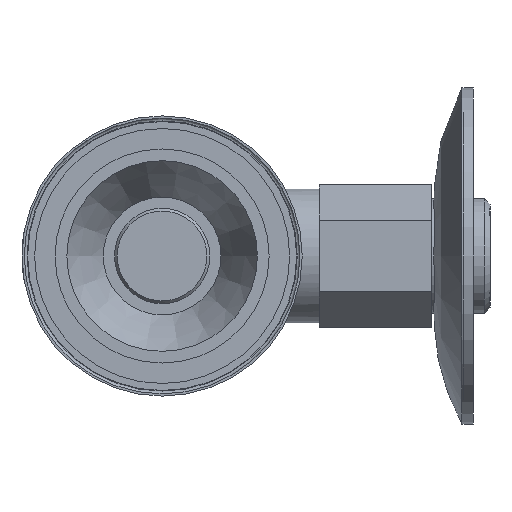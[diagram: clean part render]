
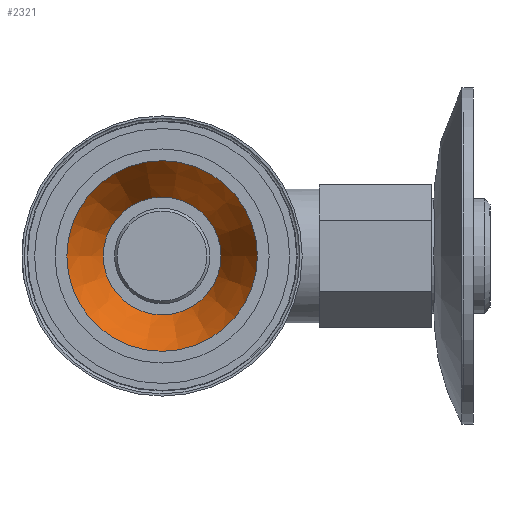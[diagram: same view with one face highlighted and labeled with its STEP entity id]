
A CAD part, front view. The second image highlights one B-rep face of the part: STEP entity #2321.
In plain terms, the highlighted conical face has half-angle 28.443 degrees and reference radius 13.75 mm.
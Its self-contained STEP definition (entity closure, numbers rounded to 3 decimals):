
#147=CONICAL_SURFACE('',#2698,13.75,0.496);
#284=FACE_OUTER_BOUND('',#423,.T.);
#423=EDGE_LOOP('',(#1702,#1703,#1704,#1705,#1706,#1707));
#577=LINE('',#3961,#684);
#684=VECTOR('',#3161,13.75);
#801=CIRCLE('',#2699,17.);
#802=CIRCLE('',#2700,17.);
#803=CIRCLE('',#2701,10.5);
#804=CIRCLE('',#2702,10.5);
#1020=VERTEX_POINT('',#3956);
#1021=VERTEX_POINT('',#3957);
#1022=VERTEX_POINT('',#3960);
#1023=VERTEX_POINT('',#3962);
#1289=EDGE_CURVE('',#1020,#1021,#801,.T.);
#1290=EDGE_CURVE('',#1021,#1020,#802,.T.);
#1291=EDGE_CURVE('',#1021,#1022,#577,.T.);
#1292=EDGE_CURVE('',#1022,#1023,#803,.T.);
#1293=EDGE_CURVE('',#1023,#1022,#804,.T.);
#1702=ORIENTED_EDGE('',*,*,#1289,.F.);
#1703=ORIENTED_EDGE('',*,*,#1290,.F.);
#1704=ORIENTED_EDGE('',*,*,#1291,.T.);
#1705=ORIENTED_EDGE('',*,*,#1292,.T.);
#1706=ORIENTED_EDGE('',*,*,#1293,.T.);
#1707=ORIENTED_EDGE('',*,*,#1291,.F.);
#2321=ADVANCED_FACE('',(#284),#147,.F.);
#2698=AXIS2_PLACEMENT_3D('',#3955,#3155,#3156);
#2699=AXIS2_PLACEMENT_3D('',#3958,#3157,#3158);
#2700=AXIS2_PLACEMENT_3D('',#3959,#3159,#3160);
#2701=AXIS2_PLACEMENT_3D('',#3963,#3162,#3163);
#2702=AXIS2_PLACEMENT_3D('',#3964,#3164,#3165);
#3155=DIRECTION('center_axis',(-1.,0.,0.));
#3156=DIRECTION('ref_axis',(0.,1.,0.));
#3157=DIRECTION('center_axis',(1.,0.,0.));
#3158=DIRECTION('ref_axis',(0.,1.,0.));
#3159=DIRECTION('center_axis',(1.,0.,0.));
#3160=DIRECTION('ref_axis',(0.,1.,0.));
#3161=DIRECTION('',(0.879,0.476,0.));
#3162=DIRECTION('center_axis',(1.,0.,0.));
#3163=DIRECTION('ref_axis',(0.,1.,0.));
#3164=DIRECTION('center_axis',(1.,0.,0.));
#3165=DIRECTION('ref_axis',(0.,1.,0.));
#3955=CARTESIAN_POINT('Origin',(175.388,118.293,0.));
#3956=CARTESIAN_POINT('',(169.388,135.293,0.));
#3957=CARTESIAN_POINT('',(169.388,101.293,0.));
#3958=CARTESIAN_POINT('Origin',(169.388,118.293,0.));
#3959=CARTESIAN_POINT('Origin',(169.388,118.293,0.));
#3960=CARTESIAN_POINT('',(181.388,107.793,0.));
#3961=CARTESIAN_POINT('',(175.388,104.543,0.));
#3962=CARTESIAN_POINT('',(181.388,128.793,0.));
#3963=CARTESIAN_POINT('Origin',(181.388,118.293,0.));
#3964=CARTESIAN_POINT('Origin',(181.388,118.293,0.));
